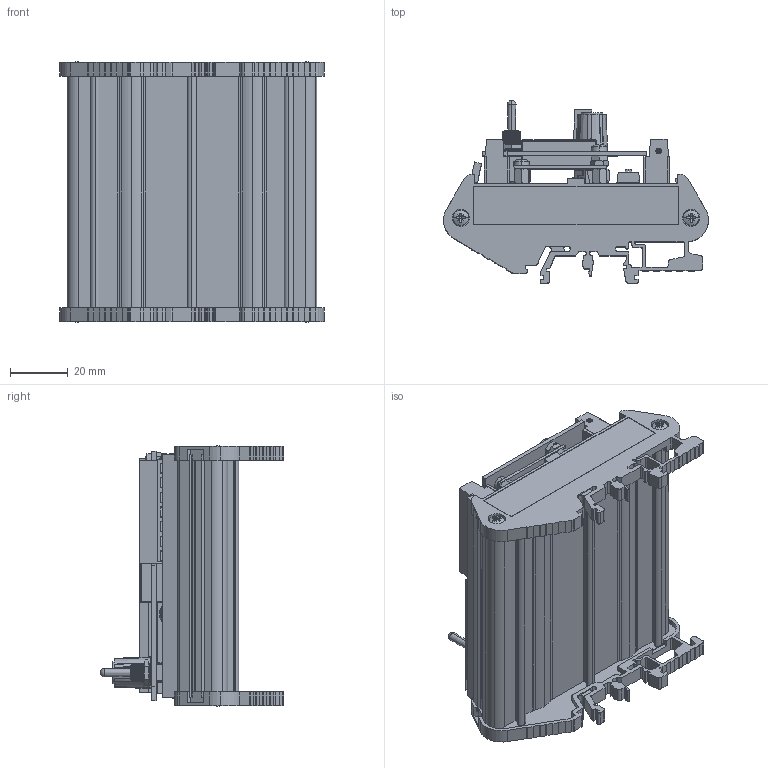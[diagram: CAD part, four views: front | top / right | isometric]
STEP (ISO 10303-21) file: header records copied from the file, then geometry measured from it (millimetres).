
FILE_DESCRIPTION((''),'1');
FILE_NAME('ETLA_transmitter.step','2023-03-10T10:51:42',(''),(''),'','','');
FILE_SCHEMA(('AUTOMOTIVE_DESIGN { 1 0 10303 214 1 1 1 1 }'));
Products named in the file (31): ETLA transmitter; ETLA screw 01; ETLA part 02; ETLA screw 03; ETLA nut 01; ETLA display 01; ETLA display 02; ETLA spacer 01; ETLA display 03; ETLA display 04; ETLA display 05; ETLA part 03; ETLA body 01; ETLA part 04; ETLA part 05; ETLA nut 02; ETLA part 06; ETLA part 07; ETLA part 08; ETLA part 09; ETLA part 11; ETLA part 12; ETLA part 13; ETLA part 14; ETLA part 15; ETLA circuit board 01; ETLA part 16; ETLA screw 04; ETLA part 17; ETLA part 18; ETLA base 01
Assembly tree (39 placements, depth 3):
  ETLA transmitter
    ETLA screw 01
    ETLA part 02
    ETLA screw 03  x3
    ETLA nut 01  x2
    ETLA display 01
    ETLA display 02
    ETLA spacer 01  x4
    ETLA display 03
    ETLA display 04
    ETLA display 05
    ETLA part 03
      ETLA body 01
      ETLA part 04
      ETLA part 05
      ETLA nut 02
      ETLA part 06
      ETLA part 07
    ETLA part 08
      ETLA part 09
      ETLA part 11
    ETLA part 12
    ETLA part 13
    ETLA part 14
    ETLA part 15
    ETLA circuit board 01
    ETLA part 16
      ETLA screw 04  x4
      ETLA part 17
      ETLA part 18
      ETLA base 01
Bounding box: 91.96 x 63.6 x 90.32 mm (x, y, z)
Volume: 80687.1 mm3; surface area: 89687.1 mm2
Topology: 40 solids, 40 shells, 4052 faces, 10596 edges, 6887 vertices
Faces by surface type: plane 2333, cylinder 1201, cone 231, torus 150, bspline 83, sphere 54
Entity records: 161208 total; most frequent: CARTESIAN_POINT 58888, ORIENTED_EDGE 19480, DIRECTION 19102, EDGE_CURVE 9740, AXIS2_PLACEMENT_3D 6483, VERTEX_POINT 6370, LINE 6136, VECTOR 6136
